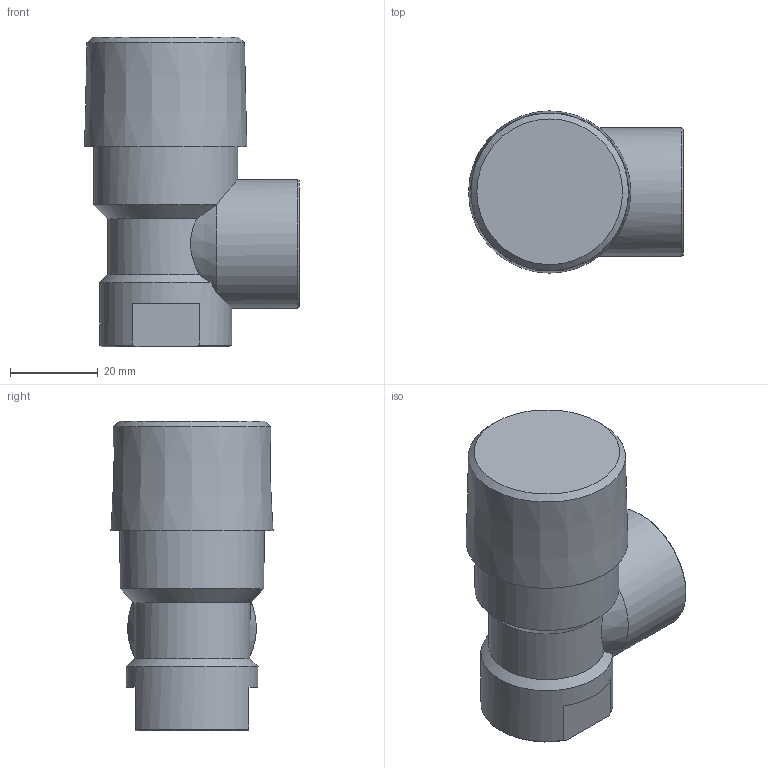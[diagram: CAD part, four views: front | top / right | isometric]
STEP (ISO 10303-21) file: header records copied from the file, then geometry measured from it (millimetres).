
FILE_DESCRIPTION(/* description */ (''),/* implementation_level */ '2;1');
FILE_NAME(/* name */ '\\DATASERVER\data\Flamco\3D-Modellen\Inventor\3D-CAD\Prescor\Prescor B\28233_prescor_b_3-4_3-4_7.stp',/* time_stamp */ '2018-06-07T15:05:59+02:00',/* author */ ('kasius'),/* organization */ (''),/* preprocessor_version */ 'ST-DEVELOPER v16.5',/* originating_system */ 'Autodesk Inventor 2017',/* authorisation */ '');
FILE_SCHEMA (('AUTOMOTIVE_DESIGN { 1 0 10303 214 3 1 1 }'));
Length unit declared in the file: millimetre
Products named in the file (1): 28233_prescor_B_3-4x3-4_7
Bounding box: 49.01 x 37.02 x 70.7 mm (x, y, z)
Volume: 57350.2 mm3; surface area: 12913.9 mm2
Topology: 1 solids, 1 shells, 27 faces, 62 edges, 40 vertices
Faces by surface type: cone 11, plane 10, cylinder 6
Full cylindrical faces by diameter (mm): 23.894 x1, 24.043 x1, 29.393 x1, 30.172 x1, 32.889 x1
Entity records: 794 total; most frequent: CARTESIAN_POINT 215, DIRECTION 114, ORIENTED_EDGE 96, AXIS2_PLACEMENT_3D 52, EDGE_CURVE 48, EDGE_LOOP 40, VERTEX_POINT 36, FACE_OUTER_BOUND 27
